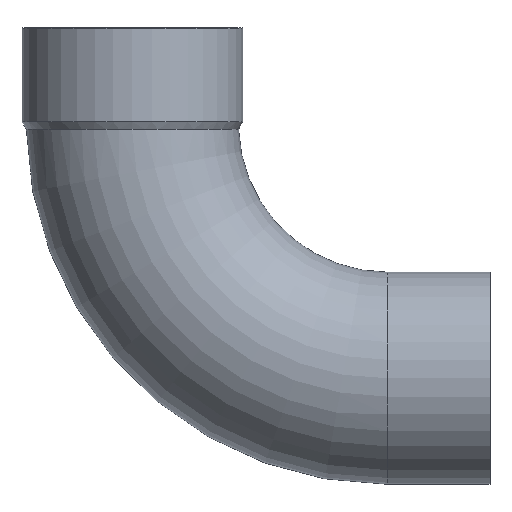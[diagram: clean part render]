
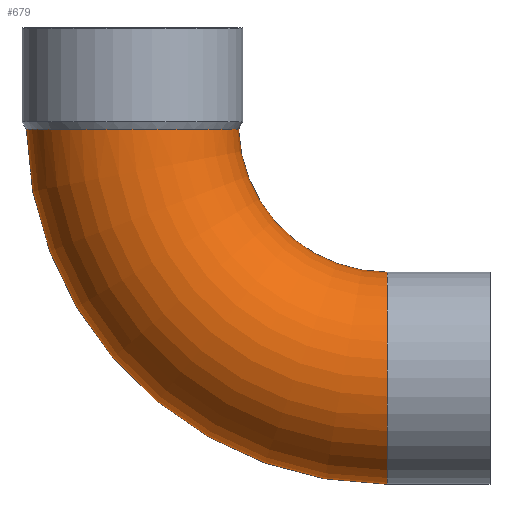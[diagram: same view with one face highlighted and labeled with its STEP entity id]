
A CAD part, front view. The second image highlights one B-rep face of the part: STEP entity #679.
In plain terms, the highlighted toroidal (fillet/blend) face has major radius 106.8 mm and minor radius 44.5 mm.
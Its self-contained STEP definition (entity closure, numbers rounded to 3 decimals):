
#49=CARTESIAN_POINT('',(-129.245,0.,-2.434));
#50=VERTEX_POINT('',#49);
#51=CARTESIAN_POINT('',(22.035,0.,-151.3));
#52=VERTEX_POINT('',#51);
#53=CARTESIAN_POINT('',(22.035,0.,0.0));
#54=DIRECTION('',(0.0,-1.0,0.0));
#55=DIRECTION('',(0.0,0.0,-1.0));
#56=AXIS2_PLACEMENT_3D('',#53,#54,#55);
#57=CIRCLE('',#56,151.3);
#58=EDGE_CURVE('',#50,#52,#57,.T.);
#60=CARTESIAN_POINT('',(-40.222,0.,-2.325));
#61=VERTEX_POINT('',#60);
#85=CARTESIAN_POINT('',(22.035,0.,-62.3));
#86=VERTEX_POINT('',#85);
#87=CARTESIAN_POINT('',(22.035,0.,0.0));
#88=DIRECTION('',(0.0,1.0,0.0));
#89=DIRECTION('',(0.0,0.0,-1.0));
#90=AXIS2_PLACEMENT_3D('',#87,#88,#89);
#91=CIRCLE('',#90,62.3);
#92=EDGE_CURVE('',#86,#61,#91,.T.);
#210=CARTESIAN_POINT('',(-40.222,0.,-2.325));
#211=CARTESIAN_POINT('',(-40.222,-0.388,-2.325));
#212=CARTESIAN_POINT('',(-40.227,-0.775,-2.325));
#213=CARTESIAN_POINT('',(-40.388,-6.955,-2.325));
#214=CARTESIAN_POINT('',(-41.67,-12.661,-2.329));
#215=CARTESIAN_POINT('',(-46.35,-23.264,-2.34));
#216=CARTESIAN_POINT('',(-49.704,-28.059,-2.348));
#217=CARTESIAN_POINT('',(-58.063,-36.093,-2.364));
#218=CARTESIAN_POINT('',(-62.988,-39.256,-2.372));
#219=CARTESIAN_POINT('',(-73.772,-43.516,-2.388));
#220=CARTESIAN_POINT('',(-79.529,-44.573,-2.395));
#221=CARTESIAN_POINT('',(-91.121,-44.42,-2.407));
#222=CARTESIAN_POINT('',(-96.846,-43.212,-2.412));
#223=CARTESIAN_POINT('',(-107.51,-38.671,-2.42));
#224=CARTESIAN_POINT('',(-112.348,-35.381,-2.424));
#225=CARTESIAN_POINT('',(-120.489,-27.132,-2.429));
#226=CARTESIAN_POINT('',(-123.714,-22.253,-2.431));
#227=CARTESIAN_POINT('',(-128.114,-11.532,-2.433));
#228=CARTESIAN_POINT('',(-129.245,-5.794,-2.434));
#229=CARTESIAN_POINT('',(-129.245,0.,-2.434));
#230=B_SPLINE_CURVE_WITH_KNOTS('',3,(#210,#211,#212,#213,#214,#215,#216,#217,#218,#219,#220,#221,#222,#223,#224,#225,#226,#227,#228,#229),.UNSPECIFIED.,.F.,.U.,(4,2,2,2,2,2,2,2,2,4),(-14.026,-13.909,-12.171,-10.432,-8.693,-6.954,-5.215,-3.476,-1.738,0.0),.UNSPECIFIED.);
#231=EDGE_CURVE('',#61,#50,#230,.T.);
#535=CARTESIAN_POINT('',(22.035,0.,-106.8));
#536=DIRECTION('',(-1.0,0.0,0.0));
#537=DIRECTION('',(0.0,0.0,-1.0));
#538=AXIS2_PLACEMENT_3D('',#535,#536,#537);
#539=CIRCLE('',#538,44.5);
#540=EDGE_CURVE('',#52,#86,#539,.T.);
#668=CARTESIAN_POINT('',(22.035,0.,0.0));
#669=DIRECTION('',(0.0,-1.0,0.0));
#670=DIRECTION('',(0.0,0.0,-1.0));
#671=AXIS2_PLACEMENT_3D('',#668,#669,#670);
#672=TOROIDAL_SURFACE('',#671,106.8,44.5);
#673=ORIENTED_EDGE('',*,*,#58,.T.);
#674=ORIENTED_EDGE('',*,*,#540,.T.);
#675=ORIENTED_EDGE('',*,*,#92,.T.);
#676=ORIENTED_EDGE('',*,*,#231,.T.);
#677=EDGE_LOOP('',(#673,#674,#675,#676));
#678=FACE_OUTER_BOUND('',#677,.T.);
#679=ADVANCED_FACE('',(#678),#672,.T.);
